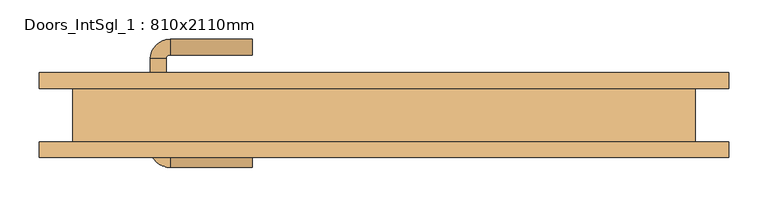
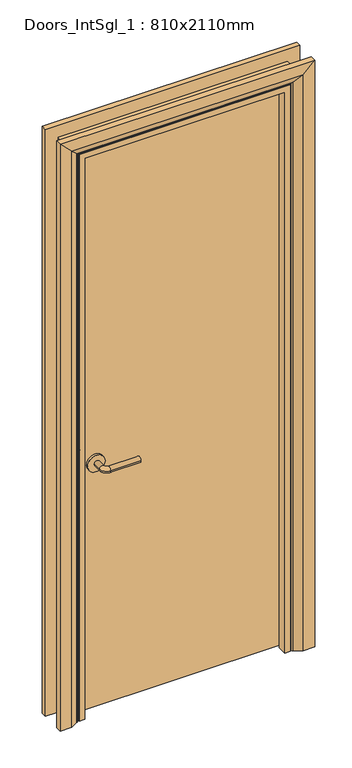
"""IFC4 building model written with IfcOpenShell, lengths in millimetres: door geometry, Doors_IntSgl_1 : 810x2110mm."""

from ifc_helpers import new_model, si_unit, point, frame, frame_2d, origin, place, context, project, spatial, polyline, circle_curve, ellipse_curve, trimmed, segment, composite_curve, outline, extrude, faceted_brep, source, transform, mapped, element, save
from ifc_brep_helpers import plane_surface, cylinder_surface, revolved_surface, advanced_brep


def doors_intsgl_1_810x2110mm_012fbb59(model_context):
    return source(origin(), model_context, "Body", "SolidModel", [
        advanced_brep(
        [(-298.0, -11.75, 900.0), (-278.0, -11.75, 900.0), (-278.0, -41.75, 900.0), (-298.0, -41.75, 900.0), (-273.0, -46.75, 900.0), (-273.0, -66.75, 900.0), (-168.0, -66.75, 900.0), (-168.0, -46.75, 900.0)],
        [
            (0, 1, circle_curve(frame((-288.0, -11.75, 900.0), z_axis=(0.0, 1.0, 0.0), x_axis=(1.0, 0.0, 0.0)), 10.0)),
            (1, 0, circle_curve(frame((-288.0, -11.75, 900.0), z_axis=(0.0, 1.0, 0.0), x_axis=(1.0, 0.0, 0.0)), 10.0)),
            (1, 2),
            (2, 3, circle_curve(frame((-288.0, -41.75, 900.0), z_axis=(0.0, 1.0, 0.0), x_axis=(1.0, 0.0, 0.0)), 10.0)),
            (3, 0),
            (3, 2, circle_curve(frame((-288.0, -41.75, 900.0), z_axis=(0.0, 1.0, 0.0), x_axis=(1.0, 0.0, 0.0)), 10.0)),
            (4, 5, circle_curve(frame((-273.0, -56.75, 900.0), z_axis=(-1.0, 0.0, 0.0), x_axis=(0.0, 1.0, 0.0)), 10.0)),
            (5, 3, circle_curve(frame((-273.0, -41.75, 900.0), z_axis=(0.0, 0.0, -1.0), x_axis=(-1.0, 0.0, 0.0)), 25.0)),
            (2, 4, circle_curve(frame((-273.0, -41.75, 900.0), z_axis=(0.0, 0.0, 1.0), x_axis=(-1.0, 0.0, 0.0)), 5.0)),
            (5, 4, circle_curve(frame((-273.0, -56.75, 900.0), z_axis=(-1.0, 0.0, 0.0), x_axis=(0.0, 1.0, 0.0)), 10.0)),
            (6, 7, circle_curve(frame((-168.0, -56.75, 900.0), z_axis=(1.0, 0.0, 0.0), x_axis=(0.0, 1.0, 0.0)), 10.0)),
            (7, 6, circle_curve(frame((-168.0, -56.75, 900.0), z_axis=(1.0, 0.0, 0.0), x_axis=(0.0, 1.0, 0.0)), 10.0)),
            (4, 7),
            (6, 5),
        ],
        [
            plane_surface(frame((-288.0, -11.75, 900.0), z_axis=(0.0, 1.0, 0.0), x_axis=(0.0, 0.0, 1.0))),
            cylinder_surface(frame((-288.0, -11.75, 900.0), z_axis=(0.0, 1.0, 0.0), x_axis=(1.0, 0.0, 0.0)), 10.0),
            revolved_surface(trimmed(ellipse_curve(frame((-288.0, -41.75, 900.0), z_axis=(0.0, -1.0, 0.0), x_axis=(1.0, 0.0, 0.0)), 10.0, 10.0), [point((-298.0, -41.75, 900.0))], [point((-278.0, -41.75, 900.0))], True, "CARTESIAN"), (-273.0, -41.75, 900.0), (0.0, 0.0, -1.0)),
            revolved_surface(trimmed(ellipse_curve(frame((-288.0, -41.75, 900.0), z_axis=(0.0, -1.0, 0.0), x_axis=(1.0, 0.0, 0.0)), 10.0, 10.0), [point((-278.0, -41.75, 900.0))], [point((-298.0, -41.75, 900.0))], True, "CARTESIAN"), (-273.0, -41.75, 900.0), (0.0, 0.0, -1.0)),
            plane_surface(frame((-168.0, -56.75, 900.0), z_axis=(1.0, 0.0, 0.0), x_axis=(0.0, 0.0, 1.0))),
            cylinder_surface(frame((-273.0, -56.75, 900.0), z_axis=(-1.0, 0.0, 0.0), x_axis=(0.0, 1.0, 0.0)), 10.0),
        ],
        [
            (0, [[1, 2]]),
            (1, [[3, 4, 5, -2]]),
            (1, [[-5, 6, -3, -1]]),
            (2, [[7, 8, -4, 9]]),
            (3, [[10, -9, -6, -8]]),
            (4, [[11, 12]]),
            (5, [[13, -11, 14, -7]]),
            (5, [[-14, -12, -13, -10]]),
        ],
    ),
        extrude(outline(composite_curve([segment(trimmed(circle_curve(frame_2d((900.0, -290.5)), 30.0), [point((900.0, -320.5))], [point((900.0, -260.5))], False, "CARTESIAN"), True, "CONTINUOUS"), segment(trimmed(circle_curve(frame_2d((900.0, -290.5)), 30.0), [point((900.0, -260.5))], [point((900.0, -320.5))], False, "CARTESIAN"), True, "CONTINUOUS")], self_intersect=False)), frame((0.0, -11.75, 0.0), z_axis=(0.0, 1.0, 0.0), x_axis=(0.0, 0.0, 1.0)), (0.0, 0.0, 1.0), 8.0),
        advanced_brep(
        [(-298.0, 42.25, 900.0), (-278.0, 42.25, 900.0), (-298.0, 72.25, 900.0), (-278.0, 72.25, 900.0), (-273.0, 77.25, 900.0), (-273.0, 97.25, 900.0), (-168.0, 97.25, 900.0), (-168.0, 77.25, 900.0)],
        [
            (0, 1, circle_curve(frame((-288.0, 42.25, 900.0), z_axis=(0.0, -1.0, 0.0), x_axis=(1.0, 0.0, 0.0)), 10.0)),
            (1, 0, circle_curve(frame((-288.0, 42.25, 900.0), z_axis=(0.0, -1.0, 0.0), x_axis=(1.0, 0.0, 0.0)), 10.0)),
            (0, 2),
            (2, 3, circle_curve(frame((-288.0, 72.25, 900.0), z_axis=(0.0, -1.0, 0.0), x_axis=(1.0, 0.0, 0.0)), 10.0)),
            (3, 1),
            (3, 2, circle_curve(frame((-288.0, 72.25, 900.0), z_axis=(0.0, -1.0, 0.0), x_axis=(1.0, 0.0, 0.0)), 10.0)),
            (4, 3, circle_curve(frame((-273.0, 72.25, 900.0), z_axis=(0.0, 0.0, 1.0), x_axis=(-1.0, 0.0, 0.0)), 5.0)),
            (2, 5, circle_curve(frame((-273.0, 72.25, 900.0), z_axis=(0.0, 0.0, -1.0), x_axis=(-1.0, 0.0, 0.0)), 25.0)),
            (5, 4, circle_curve(frame((-273.0, 87.25, 900.0), z_axis=(-1.0, 0.0, 0.0), x_axis=(0.0, -1.0, 0.0)), 10.0)),
            (4, 5, circle_curve(frame((-273.0, 87.25, 900.0), z_axis=(-1.0, 0.0, 0.0), x_axis=(0.0, -1.0, 0.0)), 10.0)),
            (6, 7, circle_curve(frame((-168.0, 87.25, 900.0), z_axis=(1.0, 0.0, 0.0), x_axis=(0.0, -1.0, 0.0)), 10.0)),
            (7, 6, circle_curve(frame((-168.0, 87.25, 900.0), z_axis=(1.0, 0.0, 0.0), x_axis=(0.0, -1.0, 0.0)), 10.0)),
            (5, 6),
            (7, 4),
        ],
        [
            plane_surface(frame((-288.0, 42.25, 900.0), z_axis=(0.0, -1.0, 0.0), x_axis=(0.0, 0.0, 1.0))),
            cylinder_surface(frame((-288.0, 42.25, 900.0), z_axis=(0.0, -1.0, 0.0), x_axis=(1.0, 0.0, 0.0)), 10.0),
            revolved_surface(trimmed(ellipse_curve(frame((-288.0, 72.25, 900.0), z_axis=(0.0, -1.0, 0.0), x_axis=(1.0, 0.0, 0.0)), 10.0, 10.0), [point((-298.0, 72.25, 900.0))], [point((-278.0, 72.25, 900.0))], True, "CARTESIAN"), (-273.0, 72.25, 900.0), (0.0, 0.0, -1.0)),
            revolved_surface(trimmed(ellipse_curve(frame((-288.0, 72.25, 900.0), z_axis=(0.0, -1.0, 0.0), x_axis=(1.0, 0.0, 0.0)), 10.0, 10.0), [point((-278.0, 72.25, 900.0))], [point((-298.0, 72.25, 900.0))], True, "CARTESIAN"), (-273.0, 72.25, 900.0), (0.0, 0.0, -1.0)),
            plane_surface(frame((-168.0, 87.25, 900.0), z_axis=(1.0, 0.0, 0.0), x_axis=(0.0, 0.0, 1.0))),
            cylinder_surface(frame((-273.0, 87.25, 900.0), z_axis=(-1.0, 0.0, 0.0), x_axis=(0.0, -1.0, 0.0)), 10.0),
        ],
        [
            (0, [[1, 2]]),
            (1, [[-1, 3, 4, 5]]),
            (1, [[-2, -5, 6, -3]]),
            (2, [[7, -4, 8, 9]]),
            (3, [[-8, -6, -7, 10]]),
            (4, [[11, 12]]),
            (5, [[-9, 13, -12, 14]]),
            (5, [[-10, -14, -11, -13]]),
        ],
    ),
        extrude(outline(composite_curve([segment(trimmed(circle_curve(frame_2d((900.0, -290.5)), 30.0), [point((900.0, -320.5))], [point((900.0, -260.5))], False, "CARTESIAN"), True, "CONTINUOUS"), segment(trimmed(circle_curve(frame_2d((900.0, -290.5)), 30.0), [point((900.0, -260.5))], [point((900.0, -320.5))], False, "CARTESIAN"), True, "CONTINUOUS")], self_intersect=False)), frame((0.0, 34.25, 0.0), z_axis=(0.0, 1.0, 0.0), x_axis=(0.0, 0.0, 1.0)), (0.0, 0.0, 1.0), 8.0),
        extrude(outline(polyline([(363.0, -3.75), (-363.0, -3.75), (-363.0, 34.25), (363.0, 34.25), (363.0, -3.75)])), frame((0.0, 0.0, 8.0), z_axis=(0.0, 0.0, 1.0), x_axis=(1.0, 0.0, 0.0)), (0.0, 0.0, 1.0), 2060.0),
        advanced_brep(
        [(440.0, 54.25, 0.0), (440.0, 34.25, 0.0), (370.0, 34.25, 0.0), (374.0, 40.25, 0.0), (400.0, 54.25, 0.0), (440.0, 54.25, 2145.0), (440.0, 34.25, 2145.0), (-440.0, 34.25, 2145.0), (-440.0, 34.25, 0.0), (-370.0, 34.25, 0.0), (-370.0, 34.25, 2075.0), (370.0, 34.25, 2075.0), (374.0, 40.25, 2079.0), (400.0, 54.25, 2105.0), (-400.0, 54.25, 2105.0), (-400.0, 54.25, 0.0), (-440.0, 54.25, 0.0), (-440.0, 54.25, 2145.0), (-374.0, 40.25, 0.0), (-374.0, 40.25, 2079.0)],
        [
            (0, 1),
            (1, 2),
            (2, 3, circle_curve(frame((378.0, 33.25, 0.0), z_axis=(0.0, 0.0, -1.0), x_axis=(1.0, 0.0, 0.0)), 8.0622577)),
            (3, 4),
            (4, 0),
            (0, 5),
            (5, 6),
            (6, 1),
            (6, 7),
            (7, 8),
            (8, 9),
            (9, 10),
            (10, 11),
            (11, 2),
            (11, 12, ellipse_curve(frame((378.0, 33.25, 2083.0), z_axis=(0.7071067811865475, 0.0, -0.7071067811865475), x_axis=(-0.7071067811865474, 0.0, -0.7071067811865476)), 11.4017543, 8.0622577)),
            (12, 3),
            (12, 13),
            (13, 4),
            (13, 14),
            (14, 15),
            (15, 16),
            (16, 17),
            (17, 5),
            (7, 17),
            (16, 8),
            (15, 18),
            (18, 9, circle_curve(frame((-378.0, 33.25, 0.0), z_axis=(0.0, 0.0, -1.0), x_axis=(-1.0, 0.0, 0.0)), 8.0622577)),
            (19, 10, ellipse_curve(frame((-378.0, 33.25, 2083.0), z_axis=(-0.7071067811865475, 0.0, -0.7071067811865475), x_axis=(-0.7071067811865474, 0.0, 0.7071067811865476)), 11.4017543, 8.0622577)),
            (18, 19),
            (14, 19),
            (19, 12),
        ],
        [
            plane_surface(frame((370.0, 34.25, 0.0), z_axis=(0.0, 0.0, -1.0), x_axis=(0.0, -1.0, 0.0))),
            plane_surface(frame((440.0, 54.25, 0.0), z_axis=(1.0, 0.0, 0.0), x_axis=(0.0, 0.0, 1.0))),
            plane_surface(frame((440.0, 34.25, 0.0), z_axis=(0.0, -1.0, 0.0), x_axis=(0.0, 0.0, 1.0))),
            cylinder_surface(frame((378.0, 33.25, 0.0), z_axis=(0.0, 0.0, -1.0), x_axis=(1.0, 0.0, 0.0)), 8.0622577),
            plane_surface(frame((374.0, 40.25, 0.0), z_axis=(-0.4740998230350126, 0.880471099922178, 0.0), x_axis=(0.0, 0.0, 1.0))),
            plane_surface(frame((400.0, 54.25, 0.0), z_axis=(0.0, 1.0, 0.0), x_axis=(0.0, 0.0, 1.0))),
            plane_surface(frame((-440.0, 54.25, 2145.0), z_axis=(-1.0, 0.0, 0.0), x_axis=(0.0, 0.0, -1.0))),
            plane_surface(frame((-370.0, 34.25, 0.0), z_axis=(0.0, 0.0, -1.0), x_axis=(0.0, -1.0, 0.0))),
            cylinder_surface(frame((-378.0, 33.25, 2075.0), z_axis=(0.0, 0.0, 1.0), x_axis=(-1.0, 0.0, 0.0)), 8.0622577),
            plane_surface(frame((-374.0, 40.25, 2079.0), z_axis=(0.47409982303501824, 0.8804710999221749, 0.0), x_axis=(0.0, 0.0, -1.0))),
            plane_surface(frame((440.0, 54.25, 2145.0), z_axis=(0.0, 0.0, 1.0), x_axis=(-1.0, 0.0, 0.0))),
            cylinder_surface(frame((370.0, 33.25, 2083.0), z_axis=(1.0, 0.0, 0.0), x_axis=(0.0, 0.0, 1.0)), 8.0622577),
            plane_surface(frame((374.0, 40.25, 2079.0), z_axis=(0.0, 0.8804710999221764, -0.4740998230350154), x_axis=(-1.0, 0.0, 0.0))),
        ],
        [
            (0, [[1, 2, 3, 4, 5]]),
            (1, [[-1, 6, 7, 8]]),
            (2, [[-2, -8, 9, 10, 11, 12, 13, 14]]),
            (3, [[-3, -14, 15, 16]]),
            (4, [[-4, -16, 17, 18]]),
            (5, [[-5, -18, 19, 20, 21, 22, 23, -6]]),
            (6, [[24, -22, 25, -10]]),
            (7, [[-21, 26, 27, -11, -25]]),
            (8, [[28, -12, -27, 29]]),
            (9, [[30, -29, -26, -20]]),
            (10, [[-7, -23, -24, -9]]),
            (11, [[-15, -13, -28, 31]]),
            (12, [[-17, -31, -30, -19]]),
        ],
    ),
        extrude(outline(polyline([(0.0, -365.0), (0.0, -346.0), (2051.0, -346.0), (2051.0, 346.0), (0.0, 346.0), (0.0, 365.0), (2070.0, 365.0), (2070.0, -365.0), (0.0, -365.0)])), frame((0.0, -37.75, 0.0), z_axis=(0.0, 1.0, 0.0), x_axis=(0.0, 0.0, 1.0)), (0.0, 0.0, 1.0), 32.0),
        advanced_brep(
        [(-440.0, -54.25, 0.0), (-440.0, -34.25, 0.0), (-370.0, -34.25, 0.0), (-374.0, -40.25, 0.0), (-400.0, -54.25, 0.0), (-440.0, -54.25, 2145.0), (-440.0, -34.25, 2145.0), (-370.0, -34.25, 2075.0), (-374.0, -40.25, 2079.0), (-400.0, -54.25, 2105.0), (440.0, -54.25, 0.0), (400.0, -54.25, 0.0), (374.0, -40.25, 0.0), (370.0, -34.25, 0.0), (440.0, -34.25, 0.0), (440.0, -54.25, 2145.0), (400.0, -54.25, 2105.0), (374.0, -40.25, 2079.0), (370.0, -34.25, 2075.0), (440.0, -34.25, 2145.0)],
        [
            (0, 1),
            (1, 2),
            (2, 3, circle_curve(frame((-378.0, -33.25, 0.0), z_axis=(0.0, 0.0, -1.0), x_axis=(-1.0, 0.0, 0.0)), 8.0622577)),
            (3, 4),
            (4, 0),
            (0, 5),
            (5, 6),
            (6, 1),
            (6, 7),
            (7, 2),
            (7, 8, ellipse_curve(frame((-378.0, -33.25, 2083.0), z_axis=(-0.7071067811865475, 0.0, -0.7071067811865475), x_axis=(0.7071067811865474, 0.0, -0.7071067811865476)), 11.4017543, 8.0622577)),
            (8, 3),
            (8, 9),
            (9, 4),
            (9, 5),
            (10, 11),
            (11, 12),
            (12, 13, circle_curve(frame((378.0, -33.25, 0.0), z_axis=(0.0, 0.0, -1.0), x_axis=(1.0, 0.0, 0.0)), 8.0622577)),
            (13, 14),
            (14, 10),
            (15, 16),
            (16, 11),
            (10, 15),
            (16, 17),
            (17, 12),
            (17, 18, ellipse_curve(frame((378.0, -33.25, 2083.0), z_axis=(0.7071067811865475, 0.0, -0.7071067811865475), x_axis=(0.7071067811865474, 0.0, 0.7071067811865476)), 11.4017543, 8.0622577)),
            (18, 13),
            (18, 19),
            (19, 14),
            (19, 15),
            (5, 15),
            (19, 6),
            (18, 7),
            (17, 8),
            (16, 9),
        ],
        [
            plane_surface(frame((-370.0, -107.0510989, 0.0), z_axis=(0.0, 0.0, -1.0), x_axis=(1.0, 0.0, 0.0))),
            plane_surface(frame((-440.0, -54.25, 0.0), z_axis=(-1.0, 0.0, 0.0), x_axis=(0.0, 0.0, 1.0))),
            plane_surface(frame((-440.0, -34.25, 0.0), z_axis=(0.0, 1.0, 0.0), x_axis=(0.0, 0.0, 1.0))),
            cylinder_surface(frame((-378.0, -33.25, 0.0), z_axis=(0.0, 0.0, -1.0), x_axis=(-1.0, 0.0, 0.0)), 8.0622577),
            plane_surface(frame((-374.0, -40.25, 0.0), z_axis=(0.4740998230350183, -0.8804710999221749, 0.0), x_axis=(0.0, 0.0, 1.0))),
            plane_surface(frame((-400.0, -54.25, 0.0), z_axis=(0.0, -1.0, 0.0), x_axis=(0.0, 0.0, 1.0))),
            plane_surface(frame((370.0, -107.0510989, 0.0), z_axis=(0.0, 0.0, -1.0), x_axis=(-1.0, 0.0, 0.0))),
            plane_surface(frame((400.0, -54.25, 2105.0), z_axis=(0.0, -1.0, 0.0), x_axis=(0.0, 0.0, -1.0))),
            plane_surface(frame((374.0, -40.25, 2079.0), z_axis=(-0.4740998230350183, -0.8804710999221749, 0.0), x_axis=(0.0, 0.0, -1.0))),
            cylinder_surface(frame((378.0, -33.25, 2075.0), z_axis=(0.0, 0.0, 1.0), x_axis=(1.0, 0.0, 0.0)), 8.0622577),
            plane_surface(frame((440.0, -34.25, 2145.0), z_axis=(0.0, 1.0, 0.0), x_axis=(0.0, 0.0, -1.0))),
            plane_surface(frame((440.0, -54.25, 2145.0), z_axis=(1.0, 0.0, 0.0), x_axis=(0.0, 0.0, -1.0))),
            plane_surface(frame((-440.0, -54.25, 2145.0), z_axis=(0.0, 0.0, 1.0), x_axis=(1.0, 0.0, 0.0))),
            plane_surface(frame((-440.0, -34.25, 2145.0), z_axis=(0.0, 1.0, 0.0), x_axis=(1.0, 0.0, 0.0))),
            cylinder_surface(frame((-370.0, -33.25, 2083.0), z_axis=(-1.0, 0.0, 0.0), x_axis=(0.0, 0.0, 1.0)), 8.0622577),
            plane_surface(frame((-374.0, -40.25, 2079.0), z_axis=(0.0, -0.8804710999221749, -0.4740998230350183), x_axis=(1.0, 0.0, 0.0))),
            plane_surface(frame((-400.0, -54.25, 2105.0), z_axis=(0.0, -1.0, 0.0), x_axis=(1.0, 0.0, 0.0))),
        ],
        [
            (0, [[1, 2, 3, 4, 5]]),
            (1, [[-1, 6, 7, 8]]),
            (2, [[-2, -8, 9, 10]]),
            (3, [[-3, -10, 11, 12]]),
            (4, [[-4, -12, 13, 14]]),
            (5, [[-5, -14, 15, -6]]),
            (6, [[16, 17, 18, 19, 20]]),
            (7, [[21, 22, -16, 23]]),
            (8, [[24, 25, -17, -22]]),
            (9, [[26, 27, -18, -25]]),
            (10, [[28, 29, -19, -27]]),
            (11, [[30, -23, -20, -29]]),
            (12, [[-7, 31, -30, 32]]),
            (13, [[-9, -32, -28, 33]]),
            (14, [[-11, -33, -26, 34]]),
            (15, [[-13, -34, -24, 35]]),
            (16, [[-15, -35, -21, -31]]),
        ],
    ),
        faceted_brep([(-365.0, 34.25, 0.0), (-365.0, -34.25, 0.0), (-397.0, -34.25, 0.0), (-397.0, 34.25, 0.0), (-365.0, 34.25, 2070.0), (-365.0, -34.25, 2070.0), (-397.0, -34.25, 2102.0), (-397.0, 34.25, 2102.0), (365.0, 34.25, 0.0), (397.0, 34.25, 0.0), (397.0, -34.25, 0.0), (365.0, -34.25, 0.0), (365.0, 34.25, 2070.0), (397.0, 34.25, 2102.0), (397.0, -34.25, 2102.0), (365.0, -34.25, 2070.0)], [[[0, 1, 2, 3]], [[1, 0, 4, 5]], [[2, 1, 5, 6]], [[3, 2, 6, 7]], [[0, 3, 7, 4]], [[8, 9, 10, 11]], [[12, 13, 9, 8]], [[13, 14, 10, 9]], [[14, 15, 11, 10]], [[15, 12, 8, 11]], [[5, 4, 12, 15]], [[6, 5, 15, 14]], [[7, 6, 14, 13]], [[4, 7, 13, 12]]]),
    ])


if __name__ == "__main__":
    model = new_model("IFC4")
    model_context = context("Model", 3, world=origin())
    ifc_project = project(units=[si_unit("LENGTHUNIT", "METRE", prefix="MILLI")], contexts=[model_context])
    site = spatial("IfcSite", under=ifc_project)
    building = spatial("IfcBuilding", under=site)
    placement = place(None, origin())
    doors_intsgl_1_810x2110mm_shape = doors_intsgl_1_810x2110mm_012fbb59(model_context)
    element("IfcDoor", 1, ObjectType="Doors_IntSgl_1 : 810x2110mm", at=placement, inside=building, context=model_context, shape_type="MappedRepresentation", body=[
        mapped(doors_intsgl_1_810x2110mm_shape, transform((0.0, 0.0, 0.0), x_axis=(1.0, 0.0, 0.0), y_axis=(0.0, 1.0, 0.0), z_axis=(0.0, 0.0, 1.0))),
    ])
    save(model, "model.ifc")
